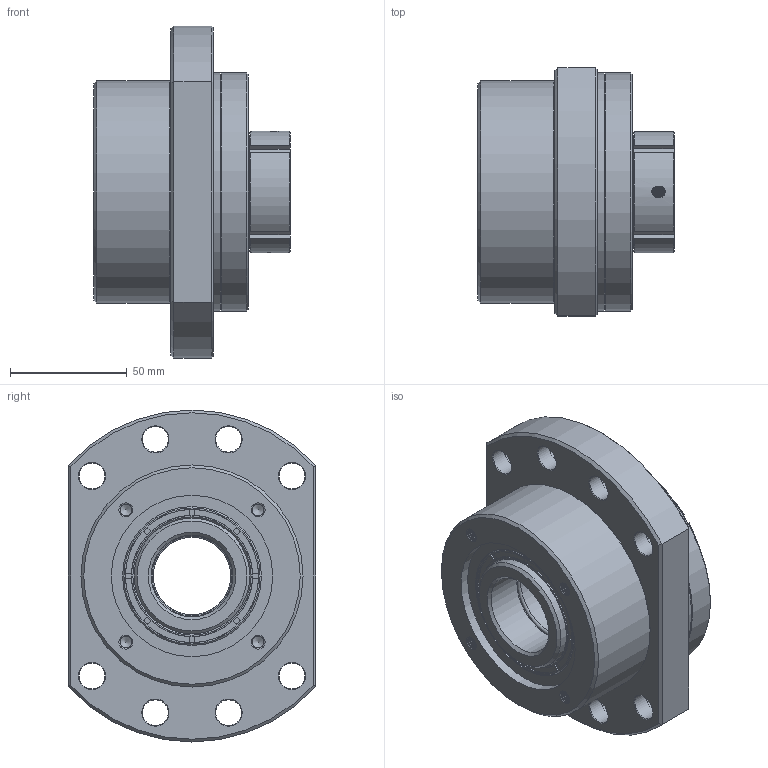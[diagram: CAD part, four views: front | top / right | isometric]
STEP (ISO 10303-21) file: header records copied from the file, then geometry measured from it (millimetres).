
FILE_DESCRIPTION(('STEP AP214'),'1');
FILE_NAME('WBK35DF (2).stp','2016-10-05T11:33:09',(' '),(' '),'Spatial InterOp 3D',' ',' ');
FILE_SCHEMA(('automotive_design'));
Length unit declared in the file: millimetre
Products named in the file (3): Assembly10; WBK35DF; WBK35DF_1
Assembly tree (2 placements, depth 2):
  Assembly10
    WBK35DF
    WBK35DF_1
Bounding box: 84 x 106 x 142 mm (x, y, z)
Volume: 463958.5 mm3; surface area: 113641 mm2
Topology: 2 solids, 31 shells, 1188 faces, 2921 edges, 1753 vertices
Faces by surface type: cone 559, plane 307, torus 120, cylinder 114, sphere 88
Full cylindrical faces by diameter (mm): 4.2 x2, 5 x8, 6.6 x8, 8 x8, 9 x8, 11 x8, 13 x8, 14 x8, 17.5 x8, 35 x4, 36.2 x1, 44 x1, 49.4 x6, 51.8 x4, 57 x8, 59.4 x3, 63.2 x1, 69 x2, 70.8 x1, 72 x4, 93.8 x1, 95 x1, 102 x2
Entity records: 53126 total; most frequent: CARTESIAN_POINT 10006, DIRECTION 4844, ORIENTED_EDGE 4124, STYLED_ITEM 3206, PRESENTATION_STYLE_ASSIGNMENT 3206, COLOUR_RGB 3206, AXIS2_PLACEMENT_3D 2188, EDGE_CURVE 2062
